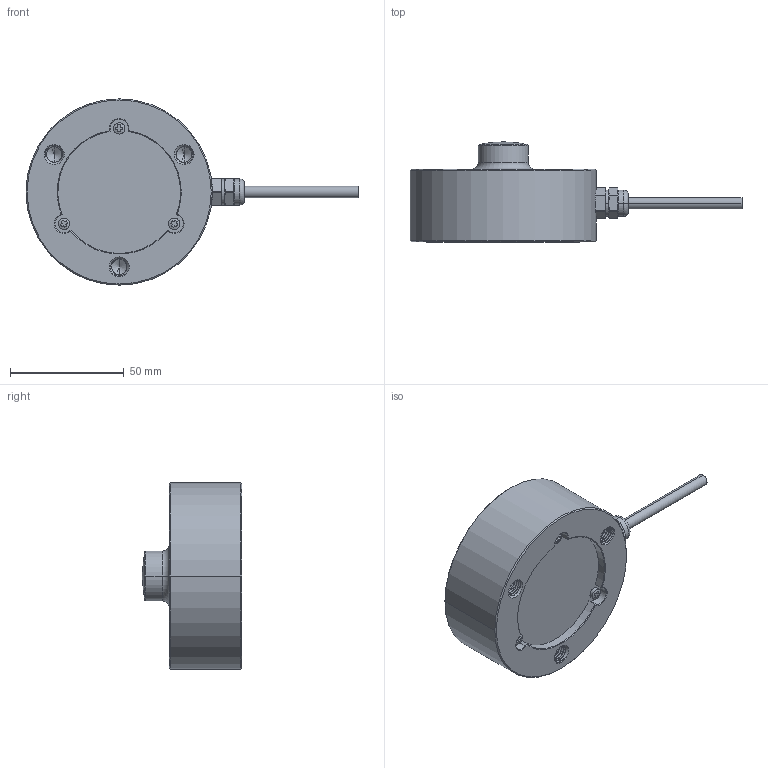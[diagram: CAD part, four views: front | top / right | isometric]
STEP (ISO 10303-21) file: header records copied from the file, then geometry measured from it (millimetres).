
FILE_DESCRIPTION (( 'STEP AP203' ), '1' );
FILE_NAME ('LCB11(20-100kN).STEP', '2024-11-28T08:14:37', ( '' ), ( '' ), 'SwSTEP 2.0', 'SolidWorks 2019', '' );
FILE_SCHEMA (( 'CONFIG_CONTROL_DESIGN' ));
Length unit declared in the file: millimetre
Products named in the file (1): LCB11(20-100kN)
Bounding box: 146.1 x 44 x 82 mm (x, y, z)
Volume: 163553.6 mm3; surface area: 24087.4 mm2
Topology: 4 solids, 4 shells, 269 faces, 724 edges, 465 vertices
Faces by surface type: cylinder 143, plane 76, cone 28, bspline 9, torus 8, sphere 5
Entity records: 18419 total; most frequent: CARTESIAN_POINT 12277, ORIENTED_EDGE 1424, DIRECTION 1143, EDGE_CURVE 712, VERTEX_POINT 462, AXIS2_PLACEMENT_3D 421, VECTOR 301, LINE 301
